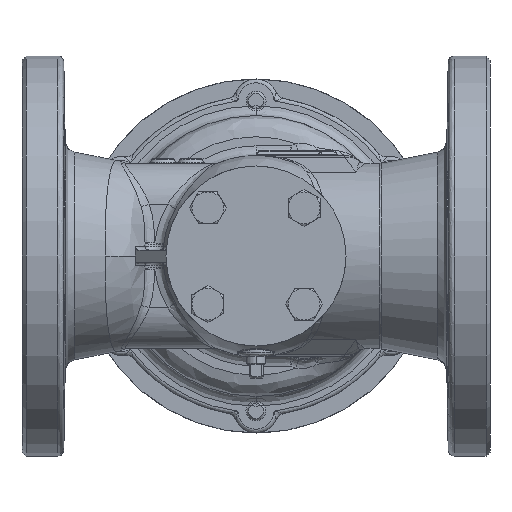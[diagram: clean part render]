
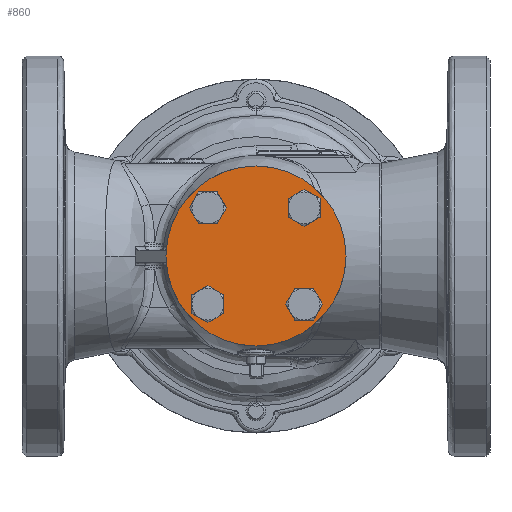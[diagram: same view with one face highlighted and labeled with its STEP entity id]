
A CAD part, front view. The second image highlights one B-rep face of the part: STEP entity #860.
In plain terms, the highlighted planar face has unit normal (0, -1, 0).
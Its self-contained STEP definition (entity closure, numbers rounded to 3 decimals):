
#860=ADVANCED_FACE('',(#6597,#6598,#6599,#6600,#6601),#6596,.T.);
#6596=PLANE('',#19300);
#6597=FACE_OUTER_BOUND('',#19301,.T.);
#6598=FACE_BOUND('',#19302,.T.);
#6599=FACE_BOUND('',#19303,.T.);
#6600=FACE_BOUND('',#19304,.T.);
#6601=FACE_BOUND('',#19305,.T.);
#19297=CARTESIAN_POINT('',(-87.942,-75.,100.));
#19298=DIRECTION('',(0.,-1.,0.));
#19299=DIRECTION('',(0.,0.,-1.));
#19300=AXIS2_PLACEMENT_3D('',#19297,#19298,#19299);
#19301=EDGE_LOOP('',(#23604,#23605));
#19302=EDGE_LOOP('',(#23606,#23607));
#19303=EDGE_LOOP('',(#23608,#23609));
#19304=EDGE_LOOP('',(#23610,#23611));
#19305=EDGE_LOOP('',(#23612,#23613));
#23604=ORIENTED_EDGE('',*,*,#25728,.T.);
#23605=ORIENTED_EDGE('',*,*,#25729,.T.);
#23606=ORIENTED_EDGE('',*,*,#25730,.F.);
#23607=ORIENTED_EDGE('',*,*,#25731,.F.);
#23608=ORIENTED_EDGE('',*,*,#25732,.F.);
#23609=ORIENTED_EDGE('',*,*,#25733,.F.);
#23610=ORIENTED_EDGE('',*,*,#25734,.F.);
#23611=ORIENTED_EDGE('',*,*,#25735,.F.);
#23612=ORIENTED_EDGE('',*,*,#25736,.F.);
#23613=ORIENTED_EDGE('',*,*,#25737,.F.);
#25728=EDGE_CURVE('',#35032,#35033,#35034,.T.);
#25729=EDGE_CURVE('',#35033,#35032,#35040,.T.);
#25730=EDGE_CURVE('',#35046,#35047,#35048,.T.);
#25731=EDGE_CURVE('',#35047,#35046,#35054,.T.);
#25732=EDGE_CURVE('',#35060,#35061,#35062,.T.);
#25733=EDGE_CURVE('',#35061,#35060,#35068,.T.);
#25734=EDGE_CURVE('',#35074,#35075,#35076,.T.);
#25735=EDGE_CURVE('',#35075,#35074,#35082,.T.);
#25736=EDGE_CURVE('',#35088,#35089,#35090,.T.);
#25737=EDGE_CURVE('',#35089,#35088,#35096,.T.);
#35032=VERTEX_POINT('',#47061);
#35033=VERTEX_POINT('',#47062);
#35034=CIRCLE('',#47066,45.);
#35040=CIRCLE('',#47070,45.);
#35046=VERTEX_POINT('',#47071);
#35047=VERTEX_POINT('',#47072);
#35048=CIRCLE('',#47076,6.);
#35054=CIRCLE('',#47080,6.);
#35060=VERTEX_POINT('',#47081);
#35061=VERTEX_POINT('',#47082);
#35062=CIRCLE('',#47086,6.);
#35068=CIRCLE('',#47090,6.);
#35074=VERTEX_POINT('',#47091);
#35075=VERTEX_POINT('',#47092);
#35076=CIRCLE('',#47096,6.);
#35082=CIRCLE('',#47100,6.);
#35088=VERTEX_POINT('',#47101);
#35089=VERTEX_POINT('',#47102);
#35090=CIRCLE('',#47106,6.);
#35096=CIRCLE('',#47110,6.);
#47061=CARTESIAN_POINT('',(0.,-75.,-45.));
#47062=CARTESIAN_POINT('',(0.,-75.,45.));
#47063=CARTESIAN_POINT('',(0.,-75.,0.));
#47064=DIRECTION('',(0.,-1.,0.));
#47065=DIRECTION('',(0.,0.,-1.));
#47066=AXIS2_PLACEMENT_3D('',#47063,#47064,#47065);
#47067=CARTESIAN_POINT('',(0.,-75.,0.));
#47068=DIRECTION('',(0.,-1.,0.));
#47069=DIRECTION('',(0.,0.,-1.));
#47070=AXIS2_PLACEMENT_3D('',#47067,#47068,#47069);
#47071=CARTESIAN_POINT('',(-24.042,-75.,18.042));
#47072=CARTESIAN_POINT('',(-24.042,-75.,30.042));
#47073=CARTESIAN_POINT('',(-24.042,-75.,24.042));
#47074=DIRECTION('',(0.,-1.,0.));
#47075=DIRECTION('',(0.,0.,1.));
#47076=AXIS2_PLACEMENT_3D('',#47073,#47074,#47075);
#47077=CARTESIAN_POINT('',(-24.042,-75.,24.042));
#47078=DIRECTION('',(0.,-1.,0.));
#47079=DIRECTION('',(0.,0.,1.));
#47080=AXIS2_PLACEMENT_3D('',#47077,#47078,#47079);
#47081=CARTESIAN_POINT('',(-24.042,-75.,-30.042));
#47082=CARTESIAN_POINT('',(-24.042,-75.,-18.042));
#47083=CARTESIAN_POINT('',(-24.042,-75.,-24.042));
#47084=DIRECTION('',(0.,-1.,0.));
#47085=DIRECTION('',(0.,0.,1.));
#47086=AXIS2_PLACEMENT_3D('',#47083,#47084,#47085);
#47087=CARTESIAN_POINT('',(-24.042,-75.,-24.042));
#47088=DIRECTION('',(0.,-1.,0.));
#47089=DIRECTION('',(0.,0.,1.));
#47090=AXIS2_PLACEMENT_3D('',#47087,#47088,#47089);
#47091=CARTESIAN_POINT('',(24.042,-75.,18.042));
#47092=CARTESIAN_POINT('',(24.042,-75.,30.042));
#47093=CARTESIAN_POINT('',(24.042,-75.,24.042));
#47094=DIRECTION('',(0.,-1.,0.));
#47095=DIRECTION('',(0.,0.,1.));
#47096=AXIS2_PLACEMENT_3D('',#47093,#47094,#47095);
#47097=CARTESIAN_POINT('',(24.042,-75.,24.042));
#47098=DIRECTION('',(0.,-1.,0.));
#47099=DIRECTION('',(0.,0.,1.));
#47100=AXIS2_PLACEMENT_3D('',#47097,#47098,#47099);
#47101=CARTESIAN_POINT('',(24.042,-75.,-30.042));
#47102=CARTESIAN_POINT('',(24.042,-75.,-18.042));
#47103=CARTESIAN_POINT('',(24.042,-75.,-24.042));
#47104=DIRECTION('',(0.,-1.,0.));
#47105=DIRECTION('',(0.,0.,1.));
#47106=AXIS2_PLACEMENT_3D('',#47103,#47104,#47105);
#47107=CARTESIAN_POINT('',(24.042,-75.,-24.042));
#47108=DIRECTION('',(0.,-1.,0.));
#47109=DIRECTION('',(0.,0.,1.));
#47110=AXIS2_PLACEMENT_3D('',#47107,#47108,#47109);
